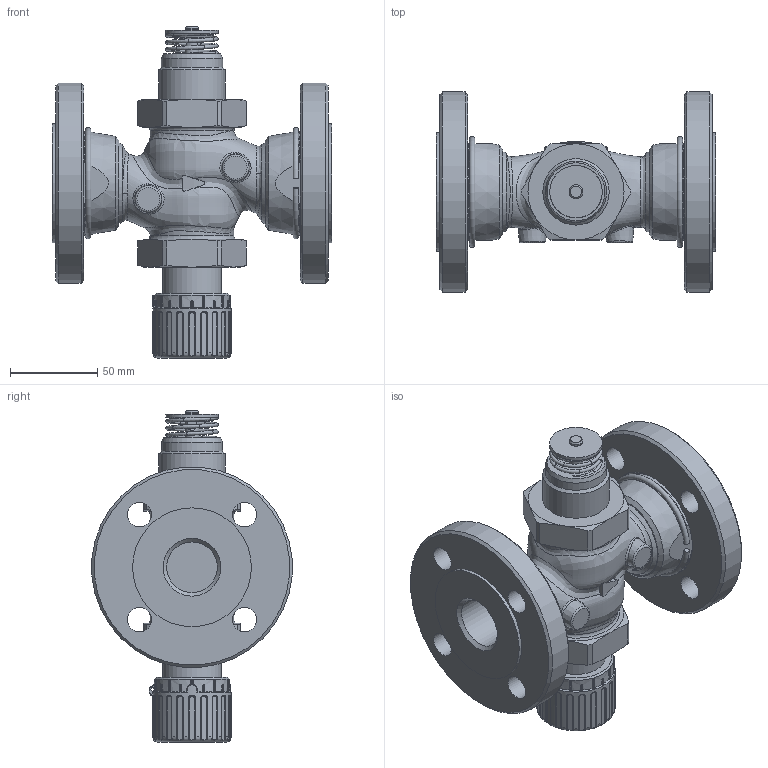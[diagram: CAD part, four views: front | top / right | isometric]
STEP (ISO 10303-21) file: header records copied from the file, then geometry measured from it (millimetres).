
FILE_DESCRIPTION(/* description */ (''),/* implementation_level */ '2;1');
FILE_NAME(/* name */ 'rv122p_dn25_F.stp',/* time_stamp */ '2012-05-24T07:17:55+02:00',/* author */ ('KLIMES'),/* organization */ ('LDM'),/* preprocessor_version */ 'ST-DEVELOPER v11',/* originating_system */ 'SIEMENS PLM Software NX 7.0',/* authorisation */ '');
FILE_SCHEMA (('CONFIG_CONTROL_DESIGN'));
Length unit declared in the file: millimetre
Products named in the file (1): klim6733ig3v
Bounding box: 160 x 114.56 x 190 mm (x, y, z)
Volume: 350866.7 mm3; surface area: 121959 mm2
Topology: 4 solids, 5 shells, 612 faces, 1494 edges, 914 vertices
Faces by surface type: cylinder 213, plane 151, bspline 107, torus 79, cone 62
Full cylindrical faces by diameter (mm): 2 x1, 8 x2, 14 x8, 24.5 x1, 29 x2, 30 x1, 33.8 x1, 35 x1, 37 x1, 38 x1, 43 x1, 44.845 x2, 47.8 x2, 48 x2, 68 x2, 115 x2
Entity records: 29240 total; most frequent: CARTESIAN_POINT 16267, ORIENTED_EDGE 2724, DIRECTION 2496, EDGE_CURVE 1362, AXIS2_PLACEMENT_3D 1058, VERTEX_POINT 874, EDGE_LOOP 750, ADVANCED_FACE 612
